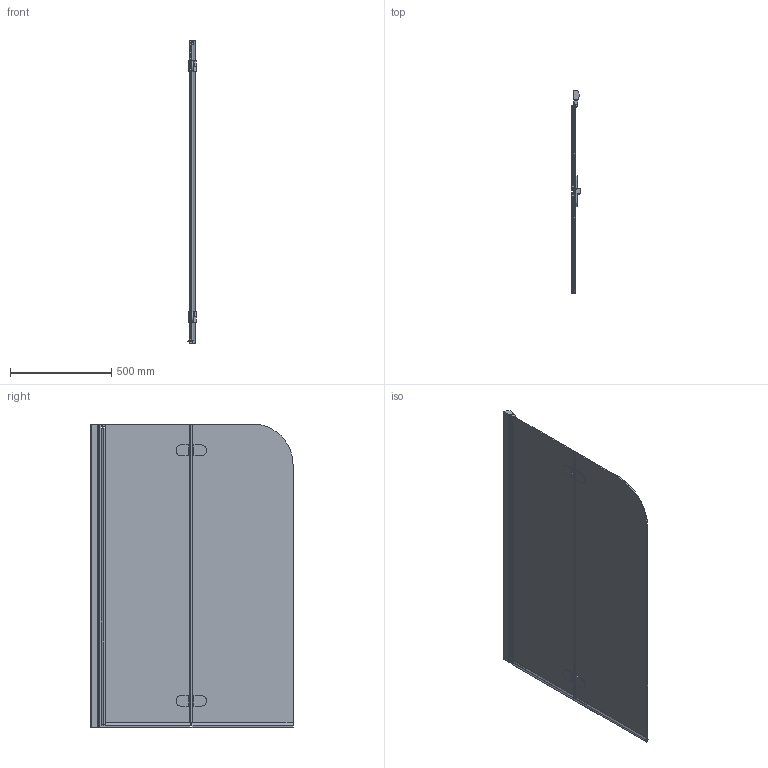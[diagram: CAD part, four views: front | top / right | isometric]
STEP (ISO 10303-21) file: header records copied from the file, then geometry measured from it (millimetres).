
FILE_DESCRIPTION(/* description */ (''),/* implementation_level */ '2;1');
FILE_NAME(/* name */ 'E:\Работа\Сергей\Душевые кабинки\! Работа\Шторки\LUX PEARL GV-102\LUX PEARL GV-102 правая модель\LUX PEARL GV-102 ПРАВАЯ-3D.stp',/* time_stamp */ '2018-04-06T19:54:32+03:00',/* author */ ('PC'),/* organization */ (''),/* preprocessor_version */ 'ST-DEVELOPER v15.2',/* originating_system */ 'Autodesk Inventor 2014',/* authorisation */ '');
FILE_SCHEMA (('AUTOMOTIVE_DESIGN { 1 0 10303 214 3 1 1 }'));
Length unit declared in the file: millimetre
Products named in the file (1): LUX PEARL GV-102 ПРАВАЯ-3D
Bounding box: 40.96 x 1000 x 1504.24 mm (x, y, z)
Volume: 11057900.8 mm3; surface area: 3383569.8 mm2
Topology: 2 solids, 4 shells, 401 faces, 1113 edges, 733 vertices
Faces by surface type: plane 288, cylinder 108, cone 5
Full cylindrical faces by diameter (mm): 5 x1, 7.8 x1, 19 x1
Entity records: 13265 total; most frequent: CARTESIAN_POINT 2321, ORIENTED_EDGE 2216, DIRECTION 2145, EDGE_CURVE 1108, LINE 851, VECTOR 851, VERTEX_POINT 732, AXIS2_PLACEMENT_3D 647
